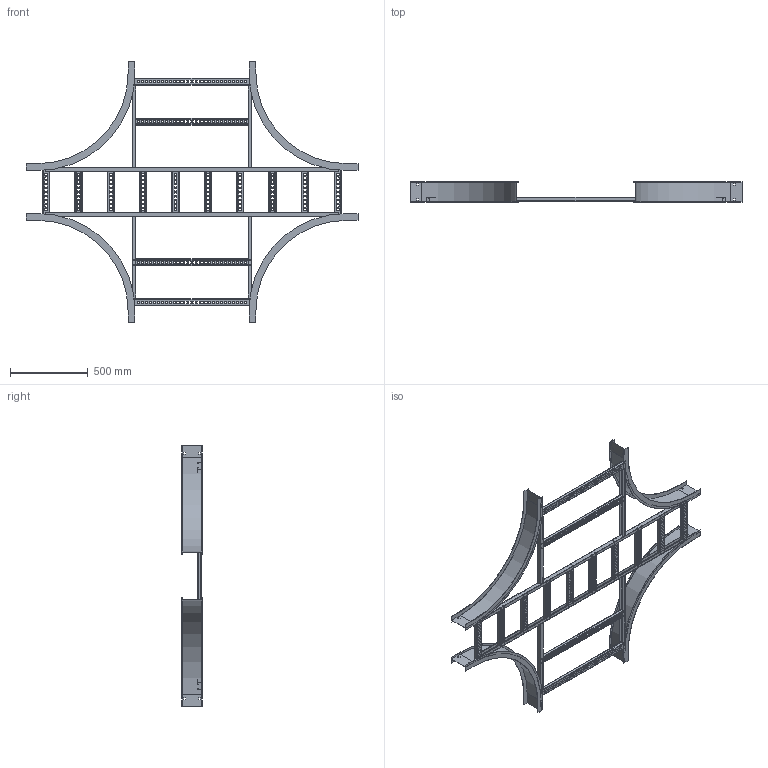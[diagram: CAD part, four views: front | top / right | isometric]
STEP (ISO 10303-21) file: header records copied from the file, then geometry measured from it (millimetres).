
FILE_DESCRIPTION((''),'2;1');
FILE_NAME('AHF51230LEX24_ASM','2010-01-27T',('erouzier'),(''),'PRO/ENGINEER BY PARAMETRIC TECHNOLOGY CORPORATION, 2008510','PRO/ENGINEER BY PARAMETRIC TECHNOLOGY CORPORATION, 2008510','');
FILE_SCHEMA(('CONFIG_CONTROL_DESIGN'));
Length unit declared in the file: inch
Products named in the file (19): CDS001811-5-90-24-I; CDS002159L12-P_AF23; CDS002159L12-P_AF24; CDS002159L12-P_AF25; CDS002159L12-P_AF26; CDS002159L12-P_AF32; CDS002159L12-P_AF27; CDS002159L12-P_AF28; CDS002159L12-P_AF29; CDS002159L12-P_AF31; CDS002159L12-P_AF30; CDS000495_GEN_AF18; CDS000495_GEN_AF19; CDS000495_GEN_AF22; CDS000495_GEN_AF23; CDS000495_GEN_AF20; CDS000495_GEN_AF21; CDS002159L30-P; AHF51230LEX24_ASM
Assembly tree (24 placements, depth 2):
  AHF51230LEX24_ASM
    CDS001811-5-90-24-I  x4
    CDS002159L12-P_AF23
    CDS002159L12-P_AF24
    CDS002159L12-P_AF25
    CDS002159L12-P_AF26
    CDS002159L12-P_AF32
    CDS002159L12-P_AF27
    CDS002159L12-P_AF28
    CDS002159L12-P_AF29
    CDS002159L12-P_AF31
    CDS002159L12-P_AF30
    CDS000495_GEN_AF18
    CDS000495_GEN_AF19
    CDS000495_GEN_AF22
    CDS000495_GEN_AF23
    CDS000495_GEN_AF20
    CDS000495_GEN_AF21
    CDS002159L30-P  x4
Bounding box: 2137.66 x 129.03 x 1680.46 mm (x, y, z)
Volume: 3736602.1 mm3; surface area: 4078044.9 mm2
Topology: 24 solids, 24 shells, 2344 faces, 6888 edges, 4592 vertices
Faces by surface type: plane 1318, cylinder 1026
Entity records: 49532 total; most frequent: CARTESIAN_POINT 8599, DIRECTION 8536, ORIENTED_EDGE 8520, EDGE_CURVE 4260, VECTOR 2982, LINE 2982, VERTEX_POINT 2840, AXIS2_PLACEMENT_3D 2777
